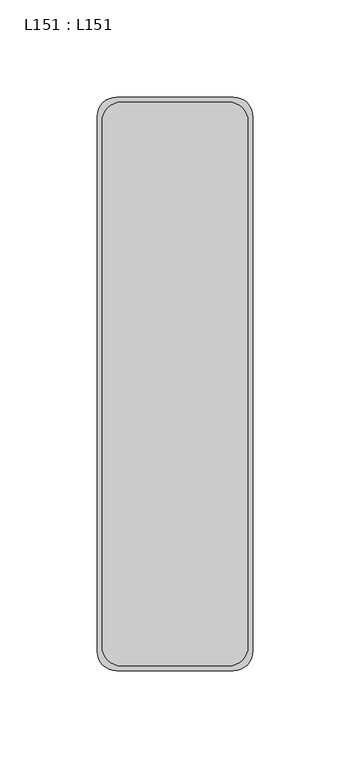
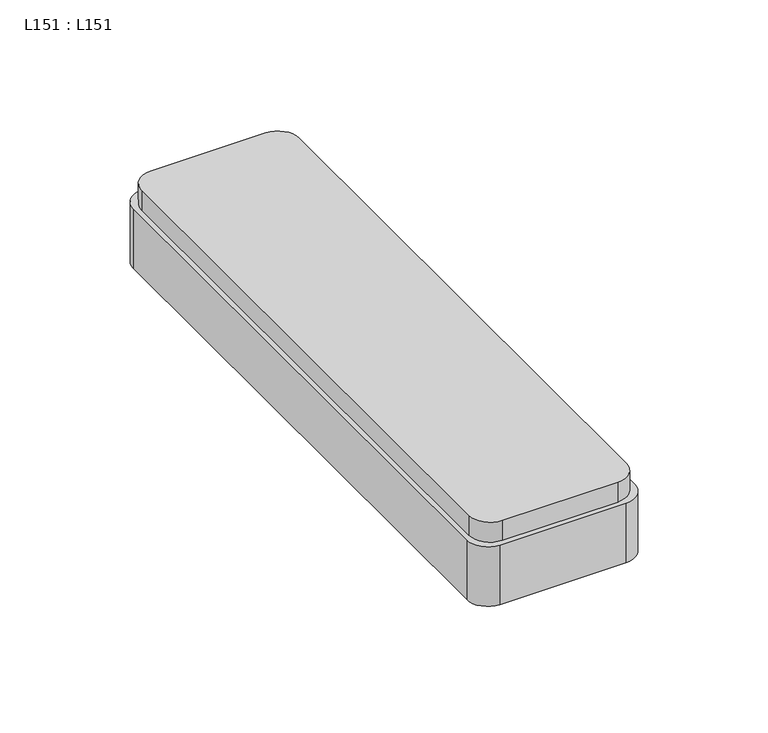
"""IFC4 building model written with IfcOpenShell, lengths in millimetres: light fixture geometry, L151 : L151."""

from ifc_helpers import new_model, si_unit, point, frame, frame_2d, origin, origin_with_axes, place, context, project, spatial, polyline, circle_curve, trimmed, segment, composite_curve, outline, extrude, source, transform, mapped, element, save


def l151_l151_e0f7dd01(model_context):
    return source(origin(), model_context, "Body", "SweptSolid", [
        extrude(outline(composite_curve([segment(trimmed(circle_curve(frame_2d((27.5, 135.0)), 10.0), [point((27.5, 145.0))], [point((37.5, 135.0))], False, "CARTESIAN"), True, "CONTINUOUS"), segment(polyline([(37.5, 135.0), (37.5, -135.0)]), True, "CONTINUOUS"), segment(trimmed(circle_curve(frame_2d((27.5, -135.0)), 10.0), [point((37.5, -135.0))], [point((27.5, -145.0))], False, "CARTESIAN"), True, "CONTINUOUS"), segment(polyline([(27.5, -145.0), (-27.5, -145.0)]), True, "CONTINUOUS"), segment(trimmed(circle_curve(frame_2d((-27.5, -135.0)), 10.0), [point((-27.5, -145.0))], [point((-37.5, -135.0))], False, "CARTESIAN"), True, "CONTINUOUS"), segment(polyline([(-37.5, -135.0), (-37.5, 135.0)]), True, "CONTINUOUS"), segment(trimmed(circle_curve(frame_2d((-27.5, 135.0)), 10.0), [point((-37.5, 135.0))], [point((-27.5, 145.0))], False, "CARTESIAN"), True, "CONTINUOUS"), segment(polyline([(-27.5, 145.0), (27.5, 145.0)]), True, "CONTINUOUS")], self_intersect=False)), frame((0.0, 0.0, 30.0), z_axis=(0.0, 0.0, 1.0), x_axis=(1.0, 0.0, 0.0)), (0.0, 0.0, 1.0), 10.0),
        extrude(outline(composite_curve([segment(trimmed(circle_curve(frame_2d((30.0, 137.5)), 10.0), [point((30.0, 147.5))], [point((40.0, 137.5))], False, "CARTESIAN"), True, "CONTINUOUS"), segment(polyline([(40.0, 137.5), (40.0, -137.5)]), True, "CONTINUOUS"), segment(trimmed(circle_curve(frame_2d((30.0, -137.5)), 10.0), [point((40.0, -137.5))], [point((30.0, -147.5))], False, "CARTESIAN"), True, "CONTINUOUS"), segment(polyline([(30.0, -147.5), (-30.0, -147.5)]), True, "CONTINUOUS"), segment(trimmed(circle_curve(frame_2d((-30.0, -137.5)), 10.0), [point((-30.0, -147.5))], [point((-40.0, -137.5))], False, "CARTESIAN"), True, "CONTINUOUS"), segment(polyline([(-40.0, -137.5), (-40.0, 137.5)]), True, "CONTINUOUS"), segment(trimmed(circle_curve(frame_2d((-30.0, 137.5)), 10.0), [point((-40.0, 137.5))], [point((-30.0, 147.5))], False, "CARTESIAN"), True, "CONTINUOUS"), segment(polyline([(-30.0, 147.5), (30.0, 147.5)]), True, "CONTINUOUS")], self_intersect=False)), origin_with_axes(), (0.0, 0.0, 1.0), 30.0),
    ])


if __name__ == "__main__":
    model = new_model("IFC4")
    model_context = context("Model", 3, world=origin())
    ifc_project = project(units=[si_unit("LENGTHUNIT", "METRE", prefix="MILLI")], contexts=[model_context])
    site = spatial("IfcSite", under=ifc_project)
    building = spatial("IfcBuilding", under=site)
    placement = place(None, origin())
    l151_l151_shape = l151_l151_e0f7dd01(model_context)
    element("IfcLightFixture", 1, ObjectType="L151 : L151", at=placement, inside=building, context=model_context, shape_type="MappedRepresentation", body=[
        mapped(l151_l151_shape, transform((0.0, 0.0, 0.0), x_axis=(1.0, 0.0, 0.0), y_axis=(0.0, 1.0, 0.0), z_axis=(0.0, 0.0, 1.0))),
    ])
    save(model, "model.ifc")
